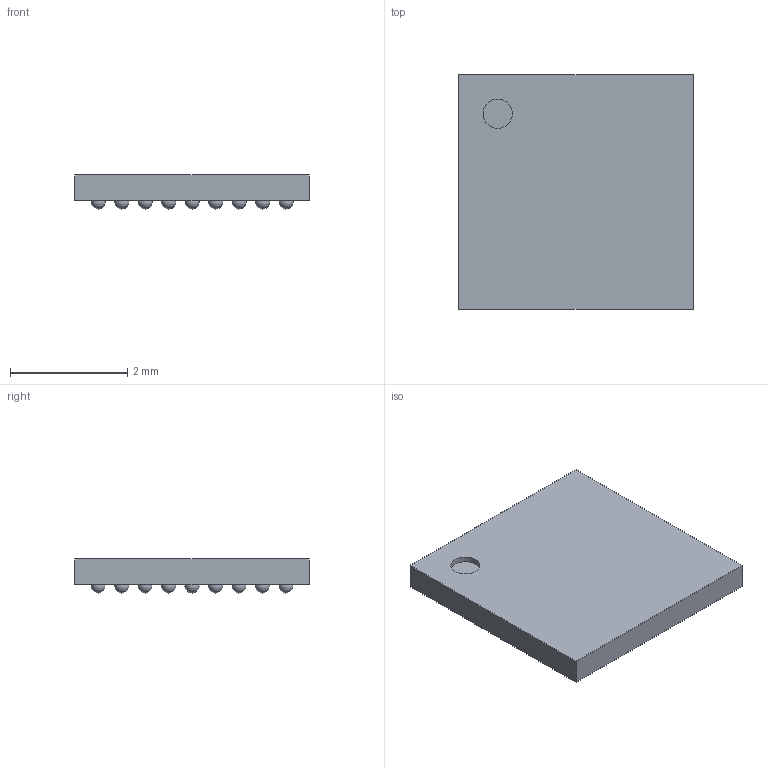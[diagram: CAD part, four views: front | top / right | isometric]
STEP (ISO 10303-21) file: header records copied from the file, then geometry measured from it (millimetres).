
FILE_DESCRIPTION(('Open CASCADE Model'),'2;1');
FILE_NAME('Open CASCADE Shape Model','2023-12-11T20:11:23',('Author'),( 'Open CASCADE'),'Open CASCADE STEP processor 7.5','Open CASCADE 7.5' ,'Unknown');
FILE_SCHEMA(('AUTOMOTIVE_DESIGN { 1 0 10303 214 1 1 1 1 }'));
Length unit declared in the file: millimetre
Products named in the file (5): BGA81C40P9X9_400X400X58.step; Open CASCADE STEP translator 7.5 23.1; Body; Open CASCADE STEP translator 7.5 23.2.1; ball
Assembly tree (84 placements, depth 3):
  BGA81C40P9X9_400X400X58.step
    Open CASCADE STEP translator 7.5 23.1
    Body
      Open CASCADE STEP translator 7.5 23.2.1
    ball  x81
Bounding box: 4 x 4 x 0.58 mm (x, y, z)
Volume: 7.7 mm3; surface area: 55.3 mm2
Topology: 82 solids, 83 shells, 90 faces, 259 edges, 173 vertices
Faces by surface type: sphere 81, plane 8, cylinder 1
Full cylindrical faces by diameter (mm): 0.5 x1
Entity records: 1189 total; most frequent: DIRECTION 240, CARTESIAN_POINT 154, AXIS2_PLACEMENT_3D 98, PRODUCT_DEFINITION_SHAPE 89, CONTEXT_DEPENDENT_SHAPE_REPRESENTATION 84, ITEM_DEFINED_TRANSFORMATION 84, NEXT_ASSEMBLY_USAGE_OCCURRENCE 84, LINE 41
